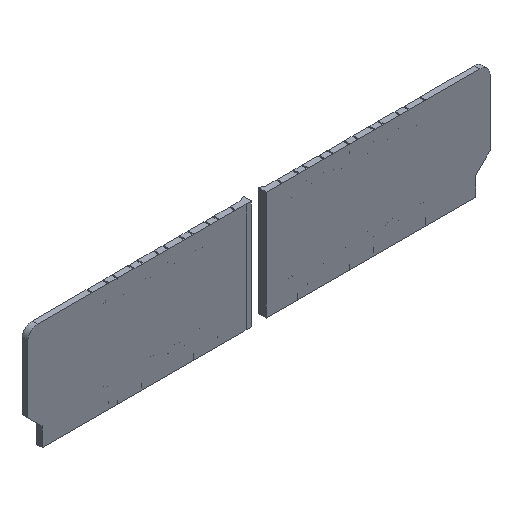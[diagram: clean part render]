
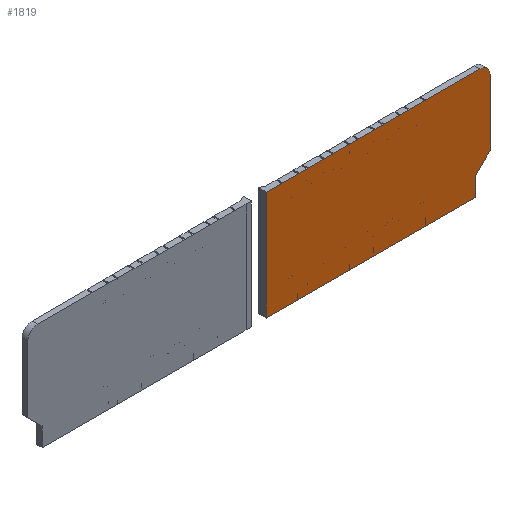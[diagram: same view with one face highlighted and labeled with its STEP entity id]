
A CAD part, isometric view. The second image highlights one B-rep face of the part: STEP entity #1819.
In plain terms, the highlighted planar face has unit normal (0, -1, 0).
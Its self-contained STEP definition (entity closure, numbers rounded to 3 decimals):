
#1747=CARTESIAN_POINT('',(0.,10.3,24.));
#1748=DIRECTION('',(0.,-1.,0.));
#1749=DIRECTION('',(1.,0.,0.));
#1750=AXIS2_PLACEMENT_3D('',#1747,#1748,#1749);
#1751=PLANE('',#1750);
#1752=CARTESIAN_POINT('',(91.2,10.3,41.));
#1753=VERTEX_POINT('',#1752);
#1754=CARTESIAN_POINT('',(87.2,10.3,45.));
#1755=VERTEX_POINT('',#1754);
#1756=CARTESIAN_POINT('',(87.2,10.3,41.));
#1757=DIRECTION('',(0.,-1.,0.));
#1758=DIRECTION('',(0.,0.,-1.));
#1759=AXIS2_PLACEMENT_3D('',#1756,#1757,#1758);
#1760=CIRCLE('',#1759,4.);
#1761=EDGE_CURVE('',#1753,#1755,#1760,.T.);
#1762=ORIENTED_EDGE('',*,*,#1761,.T.);
#1763=CARTESIAN_POINT('',(2.995,10.3,45.));
#1764=VERTEX_POINT('',#1763);
#1765=CARTESIAN_POINT('',(87.2,10.3,45.));
#1766=DIRECTION('',(-1.,-0.,0.));
#1767=VECTOR('',#1766,84.205);
#1768=LINE('',#1765,#1767);
#1769=EDGE_CURVE('',#1755,#1764,#1768,.T.);
#1770=ORIENTED_EDGE('',*,*,#1769,.T.);
#1771=CARTESIAN_POINT('',(2.995,10.3,2.));
#1772=VERTEX_POINT('',#1771);
#1773=CARTESIAN_POINT('',(2.995,10.3,2.));
#1774=DIRECTION('',(0.,0.,1.));
#1775=VECTOR('',#1774,43.);
#1776=LINE('',#1773,#1775);
#1777=EDGE_CURVE('',#1772,#1764,#1776,.T.);
#1778=ORIENTED_EDGE('',*,*,#1777,.F.);
#1779=CARTESIAN_POINT('',(6.2,10.3,2.));
#1780=VERTEX_POINT('',#1779);
#1781=CARTESIAN_POINT('',(6.2,10.3,2.));
#1782=DIRECTION('',(-1.,-0.,0.));
#1783=VECTOR('',#1782,3.205);
#1784=LINE('',#1781,#1783);
#1785=EDGE_CURVE('',#1780,#1772,#1784,.T.);
#1786=ORIENTED_EDGE('',*,*,#1785,.F.);
#1787=CARTESIAN_POINT('',(85.5,10.3,2.));
#1788=VERTEX_POINT('',#1787);
#1789=CARTESIAN_POINT('',(85.5,10.3,2.));
#1790=DIRECTION('',(-1.,-0.,-0.));
#1791=VECTOR('',#1790,79.3);
#1792=LINE('',#1789,#1791);
#1793=EDGE_CURVE('',#1788,#1780,#1792,.T.);
#1794=ORIENTED_EDGE('',*,*,#1793,.F.);
#1795=CARTESIAN_POINT('',(85.5,10.3,9.426));
#1796=VERTEX_POINT('',#1795);
#1797=CARTESIAN_POINT('',(85.5,10.3,2.));
#1798=DIRECTION('',(-0.,0.,1.));
#1799=VECTOR('',#1798,7.426);
#1800=LINE('',#1797,#1799);
#1801=EDGE_CURVE('',#1788,#1796,#1800,.T.);
#1802=ORIENTED_EDGE('',*,*,#1801,.T.);
#1803=CARTESIAN_POINT('',(91.2,10.3,15.022));
#1804=VERTEX_POINT('',#1803);
#1805=CARTESIAN_POINT('',(85.5,10.3,9.426));
#1806=DIRECTION('',(0.714,0.,0.701));
#1807=VECTOR('',#1806,7.988);
#1808=LINE('',#1805,#1807);
#1809=EDGE_CURVE('',#1796,#1804,#1808,.T.);
#1810=ORIENTED_EDGE('',*,*,#1809,.T.);
#1811=CARTESIAN_POINT('',(91.2,10.3,41.));
#1812=DIRECTION('',(0.,0.,-1.));
#1813=VECTOR('',#1812,25.978);
#1814=LINE('',#1811,#1813);
#1815=EDGE_CURVE('',#1753,#1804,#1814,.T.);
#1816=ORIENTED_EDGE('',*,*,#1815,.F.);
#1817=EDGE_LOOP('',(#1762,#1770,#1778,#1786,#1794,#1802,#1810,#1816));
#1818=FACE_BOUND('',#1817,.T.);
#1819=ADVANCED_FACE('',(#1818),#1751,.T.);
